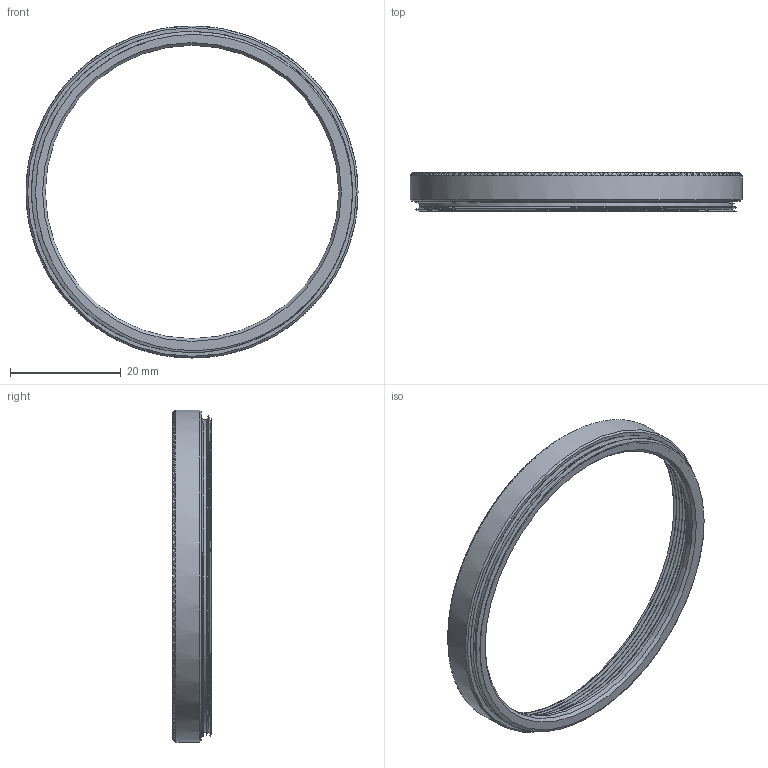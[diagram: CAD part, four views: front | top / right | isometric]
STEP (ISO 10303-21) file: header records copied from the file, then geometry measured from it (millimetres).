
FILE_DESCRIPTION(/* description */ ('STEP AP214'),/* implementation_level */ '2;1');
FILE_NAME(/* name */ 'M58.step',/* time_stamp */ '2025-10-24T08:08:28-05:00',/* author */ (''),/* organization */ (''),/* preprocessor_version */ 'ST-DEVELOPER v20.1',/* originating_system */ 'Autodesk Translation Framework v14.17.0.0',/* authorisation */ '');
FILE_SCHEMA (('AUTOMOTIVE_DESIGN { 1 0 10303 214 3 1 1 }'));
Length unit declared in the file: millimetre
Products named in the file (7): 2025-10-24-08-08-07-622; M58 assembly; M58 barrel; M58 retainer; M58 assembly_1; M58 barrel_1; M58 retainer_1
Assembly tree (6 placements, depth 3):
  2025-10-24-08-08-07-622
    M58 assembly
      M58 barrel
      M58 retainer
    M58 assembly_1
      M58 barrel_1
      M58 retainer_1
Bounding box: 60 x 7 x 60 mm (x, y, z)
Volume: 2205.5 mm3; surface area: 6417.4 mm2
Topology: 2 solids, 2 shells, 538 faces, 1468 edges, 938 vertices
Faces by surface type: plane 376, cone 123, cylinder 31, bspline 8
Full cylindrical faces by diameter (mm): 53 x2, 55.2 x1, 56.5 x5, 56.558 x1, 57.918 x5, 58 x1, 60 x1
Entity records: 19524 total; most frequent: CARTESIAN_POINT 4971, DIRECTION 3498, ORIENTED_EDGE 2936, AXIS2_PLACEMENT_3D 1543, EDGE_CURVE 1468, VERTEX_POINT 938, CIRCLE 760, EDGE_LOOP 546
